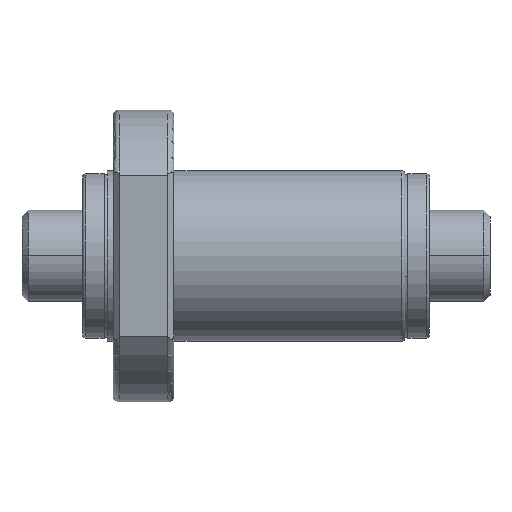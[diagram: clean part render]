
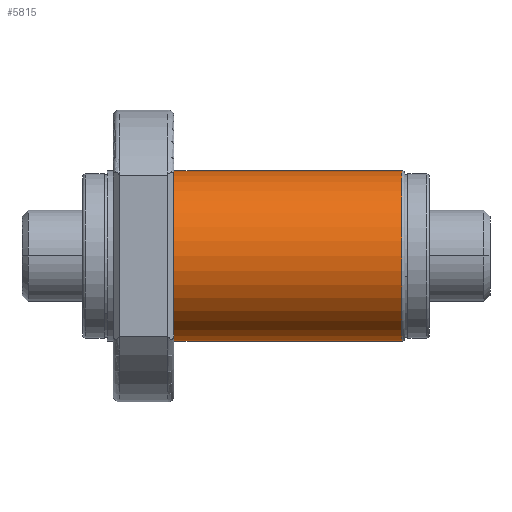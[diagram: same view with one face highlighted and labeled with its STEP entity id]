
A CAD part, top view. The second image highlights one B-rep face of the part: STEP entity #5815.
In plain terms, the highlighted cylindrical face has radius 14 mm (diameter 28 mm), a partial arc.
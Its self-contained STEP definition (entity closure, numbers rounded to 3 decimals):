
#121 = AXIS2_PLACEMENT_3D ( 'NONE', #5013, #2849, #4449 ) ;
#377 = EDGE_CURVE ( 'NONE', #4192, #3507, #5119, .T. ) ;
#405 = DIRECTION ( 'NONE',  ( -1., 0., 0. ) ) ;
#478 = DIRECTION ( 'NONE',  ( 0., 1., 0. ) ) ;
#740 = LINE ( 'NONE', #3532, #4436 ) ;
#904 = EDGE_CURVE ( 'NONE', #6726, #1379, #1008, .T. ) ;
#1008 = CIRCLE ( 'NONE', #1052, 14. ) ;
#1052 = AXIS2_PLACEMENT_3D ( 'NONE', #2906, #5594, #3441 ) ;
#1379 = VERTEX_POINT ( 'NONE', #5713 ) ;
#1541 = ORIENTED_EDGE ( 'NONE', *, *, #2528, .T. ) ;
#2528 = EDGE_CURVE ( 'NONE', #3507, #1379, #740, .T. ) ;
#2830 = CARTESIAN_POINT ( 'NONE',  ( 0., -14., 0. ) ) ;
#2849 = DIRECTION ( 'NONE',  ( -1., 0., 0. ) ) ;
#2906 = CARTESIAN_POINT ( 'NONE',  ( 15., 0., 0. ) ) ;
#2960 = AXIS2_PLACEMENT_3D ( 'NONE', #6201, #4612, #478 ) ;
#3156 = VECTOR ( 'NONE', #4434, 1000. ) ;
#3160 = ORIENTED_EDGE ( 'NONE', *, *, #904, .F. ) ;
#3227 = FACE_OUTER_BOUND ( 'NONE', #6628, .T. ) ;
#3254 = CARTESIAN_POINT ( 'NONE',  ( 15., -14., 0. ) ) ;
#3261 = LINE ( 'NONE', #2830, #3156 ) ;
#3358 = ORIENTED_EDGE ( 'NONE', *, *, #3790, .F. ) ;
#3441 = DIRECTION ( 'NONE',  ( 0., 1., 0. ) ) ;
#3507 = VERTEX_POINT ( 'NONE', #5185 ) ;
#3532 = CARTESIAN_POINT ( 'NONE',  ( 0., 14., 0. ) ) ;
#3790 = EDGE_CURVE ( 'NONE', #4192, #6726, #3261, .T. ) ;
#4192 = VERTEX_POINT ( 'NONE', #5869 ) ;
#4412 = ORIENTED_EDGE ( 'NONE', *, *, #377, .T. ) ;
#4434 = DIRECTION ( 'NONE',  ( -1., 0., 0. ) ) ;
#4436 = VECTOR ( 'NONE', #405, 1000. ) ;
#4449 = DIRECTION ( 'NONE',  ( 0., -1., 0. ) ) ;
#4612 = DIRECTION ( 'NONE',  ( -1., 0., 0. ) ) ;
#4642 = CYLINDRICAL_SURFACE ( 'NONE', #2960, 14. ) ;
#5013 = CARTESIAN_POINT ( 'NONE',  ( 52.5, 0., 0. ) ) ;
#5119 = CIRCLE ( 'NONE', #121, 14. ) ;
#5185 = CARTESIAN_POINT ( 'NONE',  ( 52.5, 14., 0. ) ) ;
#5594 = DIRECTION ( 'NONE',  ( -1., 0., 0. ) ) ;
#5713 = CARTESIAN_POINT ( 'NONE',  ( 15., 14., 0. ) ) ;
#5815 = ADVANCED_FACE ( 'NONE', ( #3227 ), #4642, .T. ) ;
#5869 = CARTESIAN_POINT ( 'NONE',  ( 52.5, -14., 0. ) ) ;
#6201 = CARTESIAN_POINT ( 'NONE',  ( 0., 0., 0. ) ) ;
#6628 = EDGE_LOOP ( 'NONE', ( #3358, #4412, #1541, #3160 ) ) ;
#6726 = VERTEX_POINT ( 'NONE', #3254 ) ;
